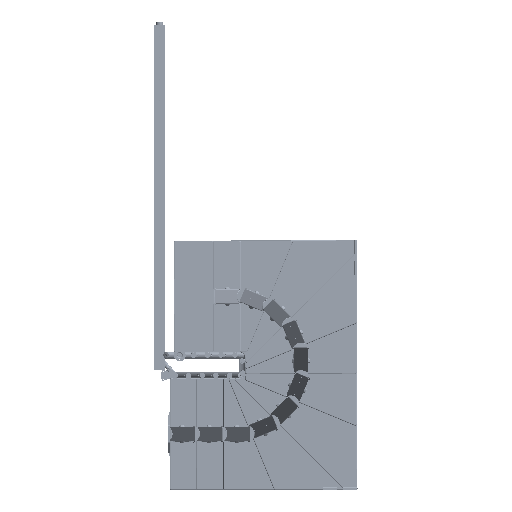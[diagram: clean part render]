
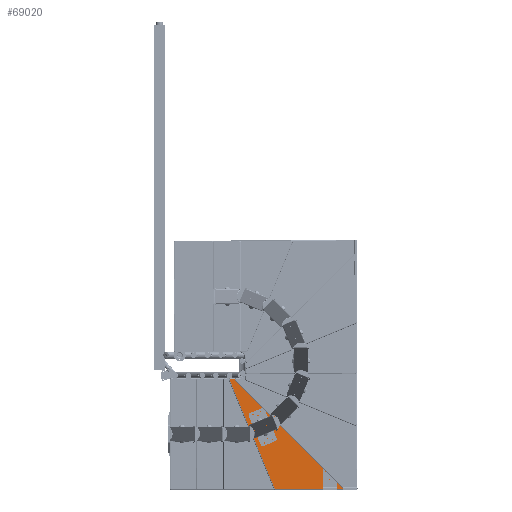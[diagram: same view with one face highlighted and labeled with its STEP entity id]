
A CAD part, front view. The second image highlights one B-rep face of the part: STEP entity #69020.
In plain terms, the highlighted planar face has unit normal (0, -1, 0) as drawn and (0, 1, 0) by its records, which use the part's own axes.
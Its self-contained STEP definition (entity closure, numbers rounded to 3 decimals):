
#302 = EDGE_CURVE ( 'NONE', #43822, #51103, #10577, .T. ) ;
#1470 = ORIENTED_EDGE ( 'NONE', *, *, #39495, .T. ) ;
#2263 = EDGE_CURVE ( 'NONE', #59010, #30972, #50750, .T. ) ;
#2393 = CARTESIAN_POINT ( 'NONE',  ( -442., 19., -535.137 ) ) ;
#2715 = CARTESIAN_POINT ( 'NONE',  ( -5., 19., 38.584 ) ) ;
#2980 = DIRECTION ( 'NONE',  ( 0., -1., 0. ) ) ;
#4025 = LINE ( 'NONE', #46517, #38949 ) ;
#4505 = CARTESIAN_POINT ( 'NONE',  ( 26.8, 19., 0. ) ) ;
#4788 = DIRECTION ( 'NONE',  ( 0., 0., -1. ) ) ;
#5513 = DIRECTION ( 'NONE',  ( 0., 1., 0. ) ) ;
#6085 = DIRECTION ( 'NONE',  ( 0., 1., 0. ) ) ;
#6159 = VECTOR ( 'NONE', #46805, 1000. ) ;
#6648 = CARTESIAN_POINT ( 'NONE',  ( -440.087, 19., -539.756 ) ) ;
#7928 = DIRECTION ( 'NONE',  ( 0., 0., 1. ) ) ;
#9600 = CARTESIAN_POINT ( 'NONE',  ( -8.087, 19., -360.816 ) ) ;
#9922 = AXIS2_PLACEMENT_3D ( 'NONE', #4505, #2980, #16247 ) ;
#10226 = VECTOR ( 'NONE', #67234, 1000. ) ;
#10577 = LINE ( 'NONE', #58159, #18127 ) ;
#13106 = DIRECTION ( 'NONE',  ( 0., 1., 0. ) ) ;
#14137 = VERTEX_POINT ( 'NONE', #57275 ) ;
#14203 = CARTESIAN_POINT ( 'NONE',  ( -440.087, 19., -539.756 ) ) ;
#15290 = PLANE ( 'NONE',  #53848 ) ;
#16247 = DIRECTION ( 'NONE',  ( 0., 0., -1. ) ) ;
#16274 = EDGE_LOOP ( 'NONE', ( #1470, #59978, #39520, #26491, #44772, #26768, #51243, #29520, #42712, #33310, #59740, #22585 ) ) ;
#16355 = EDGE_CURVE ( 'NONE', #54449, #32284, #20024, .T. ) ;
#17591 = LINE ( 'NONE', #63241, #6159 ) ;
#18127 = VECTOR ( 'NONE', #46471, 1000. ) ;
#20024 = CIRCLE ( 'NONE', #39977, 5. ) ;
#20338 = DIRECTION ( 'NONE',  ( 0.383, 0., 0.924 ) ) ;
#20715 = FACE_OUTER_BOUND ( 'NONE', #16274, .T. ) ;
#20931 = EDGE_CURVE ( 'NONE', #66504, #54449, #47909, .T. ) ;
#21122 = DIRECTION ( 'NONE',  ( 0., 0., 1. ) ) ;
#21399 = VERTEX_POINT ( 'NONE', #53378 ) ;
#21974 = CARTESIAN_POINT ( 'NONE',  ( -5., 19., -356.197 ) ) ;
#22585 = ORIENTED_EDGE ( 'NONE', *, *, #55954, .T. ) ;
#24502 = CIRCLE ( 'NONE', #45704, 5. ) ;
#24565 = DIRECTION ( 'NONE',  ( 0., 0., 1. ) ) ;
#25330 = CIRCLE ( 'NONE', #75160, 5. ) ;
#26491 = ORIENTED_EDGE ( 'NONE', *, *, #68398, .T. ) ;
#26768 = ORIENTED_EDGE ( 'NONE', *, *, #16355, .T. ) ;
#27033 = DIRECTION ( 'NONE',  ( 0., 1., 0. ) ) ;
#27332 = AXIS2_PLACEMENT_3D ( 'NONE', #49776, #13106, #30312 ) ;
#28983 = VECTOR ( 'NONE', #20338, 1000. ) ;
#29336 = CARTESIAN_POINT ( 'NONE',  ( -442., 19., -535.137 ) ) ;
#29520 = ORIENTED_EDGE ( 'NONE', *, *, #2263, .T. ) ;
#30312 = DIRECTION ( 'NONE',  ( 0., 0., 1. ) ) ;
#30972 = VERTEX_POINT ( 'NONE', #54396 ) ;
#32284 = VERTEX_POINT ( 'NONE', #75113 ) ;
#33310 = ORIENTED_EDGE ( 'NONE', *, *, #42410, .T. ) ;
#34760 = DIRECTION ( 'NONE',  ( 0., 1., 0. ) ) ;
#38949 = VECTOR ( 'NONE', #4788, 1000. ) ;
#39495 = EDGE_CURVE ( 'NONE', #62990, #43822, #44796, .T. ) ;
#39520 = ORIENTED_EDGE ( 'NONE', *, *, #69127, .T. ) ;
#39977 = AXIS2_PLACEMENT_3D ( 'NONE', #46674, #6085, #71608 ) ;
#40217 = CARTESIAN_POINT ( 'NONE',  ( -10., 19., 325.71 ) ) ;
#42410 = EDGE_CURVE ( 'NONE', #59958, #21399, #24502, .T. ) ;
#42712 = ORIENTED_EDGE ( 'NONE', *, *, #49177, .T. ) ;
#43822 = VERTEX_POINT ( 'NONE', #57558 ) ;
#44527 = DIRECTION ( 'NONE',  ( 0., 1., 0. ) ) ;
#44772 = ORIENTED_EDGE ( 'NONE', *, *, #20931, .T. ) ;
#44796 = CIRCLE ( 'NONE', #9922, 50. ) ;
#45704 = AXIS2_PLACEMENT_3D ( 'NONE', #40217, #34760, #76087 ) ;
#46471 = DIRECTION ( 'NONE',  ( 0., 0., -1. ) ) ;
#46517 = CARTESIAN_POINT ( 'NONE',  ( -5., 19., -356.197 ) ) ;
#46674 = CARTESIAN_POINT ( 'NONE',  ( -442., 19., -535.137 ) ) ;
#46805 = DIRECTION ( 'NONE',  ( 0.924, 0., 0.383 ) ) ;
#47909 = CIRCLE ( 'NONE', #57924, 5. ) ;
#47938 = EDGE_CURVE ( 'NONE', #21399, #14137, #60936, .T. ) ;
#48720 = DIRECTION ( 'NONE',  ( 0., 1., 0. ) ) ;
#49098 = CARTESIAN_POINT ( 'NONE',  ( -10., 19., -356.197 ) ) ;
#49177 = EDGE_CURVE ( 'NONE', #30972, #59958, #17591, .T. ) ;
#49381 = VERTEX_POINT ( 'NONE', #9600 ) ;
#49776 = CARTESIAN_POINT ( 'NONE',  ( -10., 19., 325.71 ) ) ;
#50750 = CIRCLE ( 'NONE', #64506, 5. ) ;
#51103 = VERTEX_POINT ( 'NONE', #21974 ) ;
#51243 = ORIENTED_EDGE ( 'NONE', *, *, #56154, .T. ) ;
#52310 = CARTESIAN_POINT ( 'NONE',  ( -11.913, 19., 330.33 ) ) ;
#53378 = CARTESIAN_POINT ( 'NONE',  ( -10., 19., 330.71 ) ) ;
#53467 = DIRECTION ( 'NONE',  ( 0., 0., 1. ) ) ;
#53848 = AXIS2_PLACEMENT_3D ( 'NONE', #2393, #44527, #21122 ) ;
#54396 = CARTESIAN_POINT ( 'NONE',  ( -102.96, 19., 292.617 ) ) ;
#54449 = VERTEX_POINT ( 'NONE', #76344 ) ;
#54632 = CARTESIAN_POINT ( 'NONE',  ( -105.666, 19., 289.911 ) ) ;
#55954 = EDGE_CURVE ( 'NONE', #14137, #62990, #4025, .T. ) ;
#56154 = EDGE_CURVE ( 'NONE', #32284, #59010, #73787, .T. ) ;
#57275 = CARTESIAN_POINT ( 'NONE',  ( -5., 19., 325.71 ) ) ;
#57558 = CARTESIAN_POINT ( 'NONE',  ( -5., 19., -38.584 ) ) ;
#57924 = AXIS2_PLACEMENT_3D ( 'NONE', #29336, #5513, #53467 ) ;
#58159 = CARTESIAN_POINT ( 'NONE',  ( -5., 19., -356.197 ) ) ;
#59010 = VERTEX_POINT ( 'NONE', #67366 ) ;
#59740 = ORIENTED_EDGE ( 'NONE', *, *, #47938, .T. ) ;
#59958 = VERTEX_POINT ( 'NONE', #52310 ) ;
#59978 = ORIENTED_EDGE ( 'NONE', *, *, #302, .T. ) ;
#60936 = CIRCLE ( 'NONE', #27332, 5. ) ;
#62535 = CARTESIAN_POINT ( 'NONE',  ( -101.046, 19., 287.998 ) ) ;
#62990 = VERTEX_POINT ( 'NONE', #2715 ) ;
#63241 = CARTESIAN_POINT ( 'NONE',  ( -11.913, 19., 330.33 ) ) ;
#64506 = AXIS2_PLACEMENT_3D ( 'NONE', #62535, #27033, #7928 ) ;
#66504 = VERTEX_POINT ( 'NONE', #6648 ) ;
#67234 = DIRECTION ( 'NONE',  ( -0.924, 0., -0.383 ) ) ;
#67366 = CARTESIAN_POINT ( 'NONE',  ( -105.666, 19., 289.911 ) ) ;
#68398 = EDGE_CURVE ( 'NONE', #49381, #66504, #72713, .T. ) ;
#69020 = ADVANCED_FACE ( 'NONE', ( #20715 ), #15290, .T. ) ;
#69127 = EDGE_CURVE ( 'NONE', #51103, #49381, #25330, .T. ) ;
#71608 = DIRECTION ( 'NONE',  ( 0., 0., 1. ) ) ;
#72713 = LINE ( 'NONE', #14203, #10226 ) ;
#73787 = LINE ( 'NONE', #54632, #28983 ) ;
#75113 = CARTESIAN_POINT ( 'NONE',  ( -446.619, 19., -533.223 ) ) ;
#75160 = AXIS2_PLACEMENT_3D ( 'NONE', #49098, #48720, #24565 ) ;
#76087 = DIRECTION ( 'NONE',  ( 0., 0., 1. ) ) ;
#76344 = CARTESIAN_POINT ( 'NONE',  ( -442., 19., -540.137 ) ) ;
